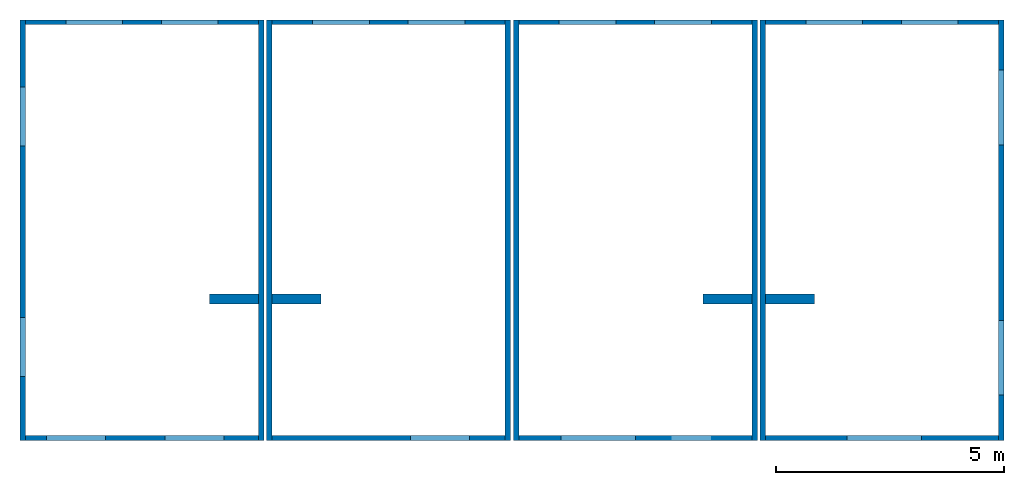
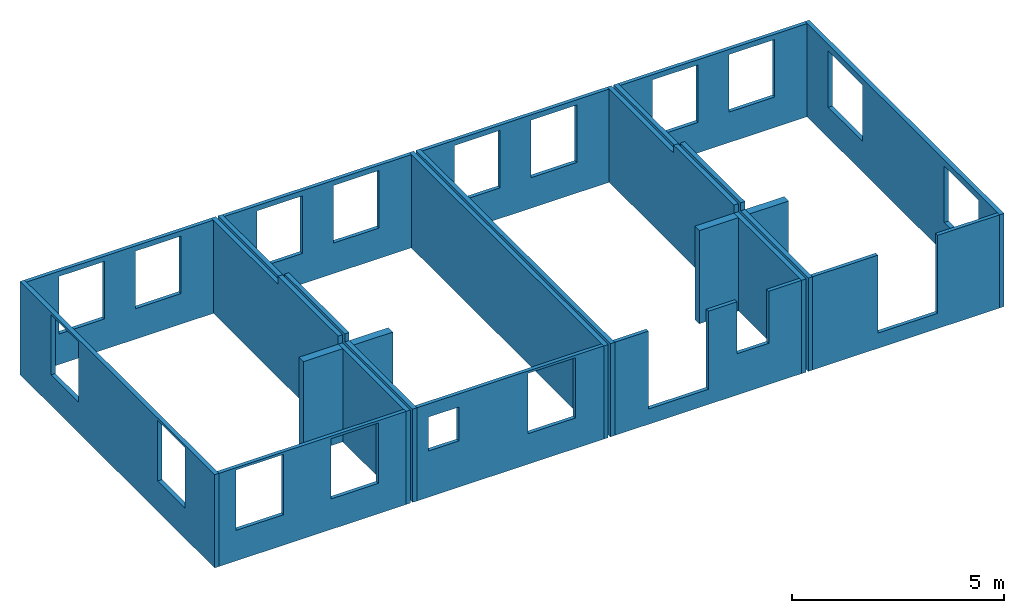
# One storey: 20 walls, 27 openings.
"""IFC2X3 building model written with IfcOpenShell, lengths in millimetres."""

from ifc_helpers import new_model, entity, si_unit, converted_unit, derived_unit, direction, frame, frame_2d, origin, origin_with_axes, origin_2d_with_axis, place, context, subcontext, project, spatial, rectangle, extrude, material, layer, layer_set, layer_usage, type_object, element, save


model = new_model("IFC2X3")

# Units and contexts
model_context_1 = context("Model", 3, precision=0.01, world=origin(), true_north=direction((6.12303176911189e-17, 1.0)))
plan_context = context("Plan", 3, precision=0.01, world=origin(), true_north=direction((6.12303176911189e-17, 1.0)))
model_context_2 = context("Model", 3, precision=0.01, world=origin(), true_north=direction((6.12303176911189e-17, 1.0)))
body_context = subcontext(model_context_2, "Body", "Model", "MODEL_VIEW")
ifc_project = project(units=[converted_unit("PLANEANGLEUNIT", "DEGREE", entity("IfcPositiveLengthMeasure", 0.0174532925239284), si_unit("PLANEANGLEUNIT", "RADIAN"), dimensions=[0, 0, 0, 0, 0, 0, 0]), si_unit("AREAUNIT", "SQUARE_METRE", prefix="MILLI"), si_unit("LENGTHUNIT", "METRE", prefix="MILLI"), si_unit("MASSUNIT", "GRAM", prefix="KILO"), si_unit("POWERUNIT", "WATT"), si_unit("PRESSUREUNIT", "PASCAL"), si_unit("FORCEUNIT", "NEWTON", prefix="KILO"), si_unit("ELECTRICCURRENTUNIT", "AMPERE"), si_unit("THERMODYNAMICTEMPERATUREUNIT", "DEGREE_CELSIUS"), si_unit("TIMEUNIT", "SECOND"), si_unit("VOLUMEUNIT", "CUBIC_METRE"), derived_unit("LINEARVELOCITYUNIT", [(si_unit("LENGTHUNIT", "METRE"), 1), (si_unit("TIMEUNIT", "SECOND"), -1)]), derived_unit("VOLUMETRICFLOWRATEUNIT", [(si_unit("VOLUMEUNIT", "CUBIC_METRE"), 1), (si_unit("TIMEUNIT", "SECOND"), -1)]), derived_unit("THERMALTRANSMITTANCEUNIT", [(si_unit("POWERUNIT", "WATT"), 1), (si_unit("THERMODYNAMICTEMPERATUREUNIT", "KELVIN"), -1), (si_unit("AREAUNIT", "SQUARE_METRE"), -1)]), derived_unit("SOUNDPRESSUREUNIT", [(si_unit("PRESSUREUNIT", "PASCAL"), 1)])], contexts=[model_context_1, plan_context])

# Site, building, storey
site_placement = place(None, origin_with_axes())
site = spatial("IfcSite", under=ifc_project, at=site_placement, Name="Harderwijk", CompositionType="ELEMENT")
building_placement = place(site_placement, origin_with_axes())
building = spatial("IfcBuilding", under=site, at=building_placement, CompositionType="ELEMENT")
storey_placement = place(building_placement, frame((0.0, 0.0, 2920.0), z_axis=(0.0, 0.0, 1.0), x_axis=(1.0, 0.0, 0.0)))
storey = spatial("IfcBuildingStorey", under=building, at=storey_placement, Name="01 eerste verdieping", CompositionType="ELEMENT", Elevation=2920.00000000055)

# Walls
ifc_material_1 = material(Name="kalkzandsteen_CS12")
ifc_layer_1 = layer(ifc_material_1, 120.0)
ifc_layer_set_1 = layer_set([ifc_layer_1], Name="Basic Wall:22_kalkzandsteen element_CS12_120mm")
ifc_layer_usage_1 = layer_usage(ifc_layer_set_1, "AXIS2", "POSITIVE", -60.0)
wall_type_1 = type_object("IfcWallType", Name="22_kalkzandsteen element_CS12_120mm", PredefinedType="STANDARD", material=ifc_layer_set_1)
wall_1_placement = place(storey_placement, frame((20890.0, 19200.0, -70.0), z_axis=(0.0, 0.0, 1.0), x_axis=(0.0, -1.0, 0.0)))
element("IfcWallStandardCase", 1, at=wall_1_placement, inside=storey, type_object=wall_type_1, material=ifc_layer_usage_1, Name="Basic Wall:22_kalkzandsteen element_CS12_120mm", ObjectType="Basic Wall:22_kalkzandsteen element_CS12_120mm", context=body_context, shape_type="SweptSolid", body=[
    extrude(rectangle(XDim=9200.0, YDim=119.999999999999, at=frame_2d((4600.0, 5.29354338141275e-13), x_axis=(-1.0, 0.0))), origin(), (0.0, 0.0, 1.0), 2690.0),
])
ifc_layer_usage_2 = layer_usage(ifc_layer_set_1, "AXIS2", "POSITIVE", -60.0)
wall_2_placement = place(storey_placement, frame((20710.0, 19200.0, -70.0), z_axis=(0.0, 0.0, 1.0), x_axis=(0.0, -1.0, 0.0)))
element("IfcWallStandardCase", 2, at=wall_2_placement, inside=storey, type_object=wall_type_1, material=ifc_layer_usage_2, Name="Basic Wall:22_kalkzandsteen element_CS12_120mm", ObjectType="Basic Wall:22_kalkzandsteen element_CS12_120mm", context=body_context, shape_type="SweptSolid", body=[
    extrude(rectangle(XDim=9200.00000000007, YDim=119.999999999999, at=frame_2d((4600.00000000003, 5.29354338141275e-13), x_axis=(-1.0, 0.0))), origin(), (0.0, 0.0, 1.0), 2690.0),
])

# Wall, openings
ifc_layer_usage_3 = layer_usage(ifc_layer_set_1, "AXIS2", "POSITIVE", -60.0)
wall_3_placement = place(storey_placement, frame((26110.0, 19200.0, -70.0), z_axis=(0.0, 0.0, 1.0), x_axis=(0.0, -1.0, 0.0)))
wall_3 = element("IfcWallStandardCase", 3, at=wall_3_placement, inside=storey, type_object=wall_type_1, material=ifc_layer_usage_3, Name="Basic Wall:22_kalkzandsteen element_CS12_120mm", ObjectType="Basic Wall:22_kalkzandsteen element_CS12_120mm", context=body_context, shape_type="SweptSolid", body=[
    extrude(rectangle(XDim=9200.00000000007, YDim=119.999999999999, at=frame_2d((4600.00000000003, 5.29354338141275e-13), x_axis=(-1.0, 0.0))), origin(), (0.0, 0.0, 1.0), 2919.99999999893),
])
opening_1_placement = place(wall_3_placement, origin_with_axes())
element("IfcOpeningElement", 4, at=opening_1_placement, cuts=wall_3, Name="Basic Wall:22_kalkzandsteen element_CS12_120mm", ObjectType="Opening", context=body_context, shape_type="SweptSolid", body=[
    extrude(rectangle(XDim=229.999999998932, YDim=3200.00000000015, at=origin_2d_with_axis()), frame((7600.0, 60.0, 2805.0), z_axis=(0.0, -1.0, 0.0), x_axis=(0.0, 0.0, 1.0)), (0.0, 0.0, 1.0), 120.0),
])
opening_2_placement = place(wall_3_placement, origin_with_axes())
element("IfcOpeningElement", 5, at=opening_2_placement, cuts=wall_3, Name="Basic Wall:22_kalkzandsteen element_CS12_120mm", ObjectType="Opening", context=body_context, shape_type="SweptSolid", body=[
    extrude(rectangle(XDim=229.999999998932, YDim=3150.0, at=frame_2d((0.0, 0.0), x_axis=(0.0, 1.0))), frame((1575.0, 60.0, 2805.0), z_axis=(0.0, -1.0, 0.0), x_axis=(-1.0, 0.0, 0.0)), (0.0, 0.0, 1.0), 120.0),
])

ifc_layer_usage_4 = layer_usage(ifc_layer_set_1, "AXIS2", "POSITIVE", -60.0)
wall_4_placement = place(storey_placement, frame((15310.0, 19200.0, -70.0), z_axis=(0.0, 0.0, 1.0), x_axis=(0.0, -1.0, 0.0)))
wall_4 = element("IfcWallStandardCase", 6, at=wall_4_placement, inside=storey, type_object=wall_type_1, material=ifc_layer_usage_4, Name="Basic Wall:22_kalkzandsteen element_CS12_120mm", ObjectType="Basic Wall:22_kalkzandsteen element_CS12_120mm", context=body_context, shape_type="SweptSolid", body=[
    extrude(rectangle(XDim=9200.00000000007, YDim=119.999999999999, at=frame_2d((4600.00000000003, -5.54223333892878e-13), x_axis=(-1.0, 0.0))), origin(), (0.0, 0.0, 1.0), 2919.99999999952),
])
opening_3_placement = place(wall_4_placement, origin_with_axes())
element("IfcOpeningElement", 7, at=opening_3_placement, cuts=wall_4, Name="Basic Wall:22_kalkzandsteen element_CS12_120mm", ObjectType="Opening", context=body_context, shape_type="SweptSolid", body=[
    extrude(rectangle(XDim=229.999999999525, YDim=3200.00000000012, at=frame_2d((0.0, -1.13686837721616e-12), x_axis=(1.0, 0.0))), frame((7600.0, 60.0, 2805.0), z_axis=(0.0, -1.0, 0.0), x_axis=(0.0, 0.0, 1.0)), (0.0, 0.0, 1.0), 120.0),
])
opening_4_placement = place(wall_4_placement, origin_with_axes())
element("IfcOpeningElement", 8, at=opening_4_placement, cuts=wall_4, Name="Basic Wall:22_kalkzandsteen element_CS12_120mm", ObjectType="Opening", context=body_context, shape_type="SweptSolid", body=[
    extrude(rectangle(XDim=229.999999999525, YDim=3150.00000000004, at=frame_2d((0.0, 0.0), x_axis=(0.0, 1.0))), frame((1575.0, 60.0, 2805.0), z_axis=(0.0, -1.0, 0.0), x_axis=(-1.0, 0.0, 0.0)), (0.0, 0.0, 1.0), 120.0),
])

ifc_layer_usage_5 = layer_usage(ifc_layer_set_1, "AXIS2", "POSITIVE", -60.0)
wall_5_placement = place(storey_placement, frame((15490.0, 19200.0, -70.0), z_axis=(0.0, 0.0, 1.0), x_axis=(0.0, -1.0, 0.0)))
wall_5 = element("IfcWallStandardCase", 9, at=wall_5_placement, inside=storey, type_object=wall_type_1, material=ifc_layer_usage_5, Name="Basic Wall:22_kalkzandsteen element_CS12_120mm", ObjectType="Basic Wall:22_kalkzandsteen element_CS12_120mm", context=body_context, shape_type="SweptSolid", body=[
    extrude(rectangle(XDim=9200.00000000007, YDim=119.999999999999, at=frame_2d((4600.00000000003, -5.54223333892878e-13), x_axis=(-1.0, 0.0))), origin(), (0.0, 0.0, 1.0), 2920.0),
])
opening_5_placement = place(wall_5_placement, origin_with_axes())
element("IfcOpeningElement", 10, at=opening_5_placement, cuts=wall_5, Name="Basic Wall:22_kalkzandsteen element_CS12_120mm", ObjectType="Opening", context=body_context, shape_type="SweptSolid", body=[
    extrude(rectangle(XDim=230.0, YDim=3200.00000000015, at=origin_2d_with_axis()), frame((7600.0, 60.0, 2805.0), z_axis=(0.0, -1.0, 0.0), x_axis=(0.0, 0.0, 1.0)), (0.0, 0.0, 1.0), 120.0),
])
opening_6_placement = place(wall_5_placement, origin_with_axes())
element("IfcOpeningElement", 11, at=opening_6_placement, cuts=wall_5, Name="Basic Wall:22_kalkzandsteen element_CS12_120mm", ObjectType="Opening", context=body_context, shape_type="SweptSolid", body=[
    extrude(rectangle(XDim=230.0, YDim=3150.00000000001, at=frame_2d((1.13686837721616e-12, 0.0), x_axis=(0.0, 1.0))), frame((1575.0, 60.0, 2805.0), z_axis=(0.0, -1.0, 0.0), x_axis=(-1.0, 0.0, 0.0)), (0.0, 0.0, 1.0), 120.0),
])

ifc_layer_usage_6 = layer_usage(ifc_layer_set_1, "AXIS2", "POSITIVE", -60.0)
wall_6_placement = place(storey_placement, frame((26290.0, 19200.0, -70.0), z_axis=(0.0, 0.0, 1.0), x_axis=(0.0, -1.0, 0.0)))
wall_6 = element("IfcWallStandardCase", 12, at=wall_6_placement, inside=storey, type_object=wall_type_1, material=ifc_layer_usage_6, Name="Basic Wall:22_kalkzandsteen element_CS12_120mm", ObjectType="Basic Wall:22_kalkzandsteen element_CS12_120mm", context=body_context, shape_type="SweptSolid", body=[
    extrude(rectangle(XDim=9200.00000000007, YDim=119.999999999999, at=frame_2d((4600.00000000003, 5.29354338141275e-13), x_axis=(-1.0, 0.0))), origin(), (0.0, 0.0, 1.0), 2919.99999999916),
])
opening_7_placement = place(wall_6_placement, origin_with_axes())
element("IfcOpeningElement", 13, at=opening_7_placement, cuts=wall_6, Name="Basic Wall:22_kalkzandsteen element_CS12_120mm", ObjectType="Opening", context=body_context, shape_type="SweptSolid", body=[
    extrude(rectangle(XDim=229.999999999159, YDim=3200.00000000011, at=frame_2d((0.0, 1.13686837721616e-12), x_axis=(1.0, 0.0))), frame((7600.0, 60.0, 2805.0), z_axis=(0.0, -1.0, 0.0), x_axis=(0.0, 0.0, 1.0)), (0.0, 0.0, 1.0), 120.0),
])
opening_8_placement = place(wall_6_placement, origin_with_axes())
element("IfcOpeningElement", 14, at=opening_8_placement, cuts=wall_6, Name="Basic Wall:22_kalkzandsteen element_CS12_120mm", ObjectType="Opening", context=body_context, shape_type="SweptSolid", body=[
    extrude(rectangle(XDim=229.999999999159, YDim=3149.99999999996, at=frame_2d((1.9554136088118e-11, 0.0), x_axis=(0.0, 1.0))), frame((1575.0, 60.0, 2805.0), z_axis=(0.0, -1.0, 0.0), x_axis=(-1.0, 0.0, 0.0)), (0.0, 0.0, 1.0), 120.0),
])

ifc_layer_2 = layer(ifc_material_1, 120.0)
ifc_layer_set_2 = layer_set([ifc_layer_2], Name="Basic Wall:21_kalkzandsteen element_CS12_120mm")
ifc_layer_usage_7 = layer_usage(ifc_layer_set_2, "AXIS2", "POSITIVE", -60.0)
wall_type_2 = type_object("IfcWallType", Name="21_kalkzandsteen element_CS12_120mm", PredefinedType="STANDARD", material=ifc_layer_set_2)
wall_7_placement = place(storey_placement, frame((10090.0, 19200.0, -70.0), z_axis=(0.0, 0.0, 1.0), x_axis=(0.0, -1.0, 0.0)))
wall_7 = element("IfcWallStandardCase", 15, at=wall_7_placement, inside=storey, type_object=wall_type_2, material=ifc_layer_usage_7, Name="Basic Wall:21_kalkzandsteen element_CS12_120mm", ObjectType="Basic Wall:21_kalkzandsteen element_CS12_120mm", context=body_context, shape_type="SweptSolid", body=[
    extrude(rectangle(XDim=9200.0, YDim=119.999999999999, at=frame_2d((4600.0, -5.54223333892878e-13), x_axis=(-1.0, 0.0))), origin(), (0.0, 0.0, 1.0), 2690.0),
])
opening_9_placement = place(wall_7_placement, frame((2755.0, -1584.0, 880.0), z_axis=(0.0, 0.0, 1.0), x_axis=(0.0, 1.0, 0.0)))
element("IfcOpeningElement", 16, at=opening_9_placement, cuts=wall_7, Name="Basic Wall:21_kalkzandsteen element_CS12_120mm", ObjectType="Opening", context=body_context, shape_type="SweptSolid", body=[
    extrude(rectangle(XDim=1740.0, YDim=1292.0, at=frame_2d((-2.27373675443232e-13, 0.0), x_axis=(1.0, 0.0))), frame((0.0, 646.0, 870.0), z_axis=(1.0, 0.0, 0.0), x_axis=(0.0, 0.0, -1.0)), (0.0, 0.0, 1.0), 3048.0),
])
opening_10_placement = place(wall_7_placement, frame((7801.0, -1584.0, 880.0), z_axis=(0.0, 0.0, 1.0), x_axis=(0.0, 1.0, 0.0)))
element("IfcOpeningElement", 17, at=opening_10_placement, cuts=wall_7, Name="Basic Wall:21_kalkzandsteen element_CS12_120mm", ObjectType="Opening", context=body_context, shape_type="SweptSolid", body=[
    extrude(rectangle(XDim=1740.0, YDim=1292.0, at=frame_2d((0.0, -1.08002495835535e-12), x_axis=(1.0, 0.0))), frame((0.0, 646.0, 870.0), z_axis=(1.0, 0.0, 0.0), x_axis=(0.0, 0.0, -1.0)), (0.0, 0.0, 1.0), 3048.0),
])

ifc_layer_usage_8 = layer_usage(ifc_layer_set_2, "AXIS2", "POSITIVE", -60.0)
wall_8_placement = place(storey_placement, frame((31510.0, 19200.0, -70.0), z_axis=(0.0, 0.0, 1.0), x_axis=(0.0, -1.0, 0.0)))
wall_8 = element("IfcWallStandardCase", 18, at=wall_8_placement, inside=storey, type_object=wall_type_2, material=ifc_layer_usage_8, Name="Basic Wall:21_kalkzandsteen element_CS12_120mm", ObjectType="Basic Wall:21_kalkzandsteen element_CS12_120mm", context=body_context, shape_type="SweptSolid", body=[
    extrude(rectangle(XDim=9200.0, YDim=119.999999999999, at=frame_2d((4600.0, 5.29354338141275e-13), x_axis=(-1.0, 0.0))), origin(), (0.0, 0.0, 1.0), 2690.0),
])
opening_11_placement = place(wall_8_placement, frame((2731.0, -1584.0, 880.0), z_axis=(0.0, 0.0, 1.0), x_axis=(0.0, 1.0, 0.0)))
element("IfcOpeningElement", 19, at=opening_11_placement, cuts=wall_8, Name="Basic Wall:21_kalkzandsteen element_CS12_120mm", ObjectType="Opening", context=body_context, shape_type="SweptSolid", body=[
    extrude(rectangle(XDim=1625.0, YDim=1632.0, at=frame_2d((0.0, 1.08002495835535e-12), x_axis=(1.0, 0.0))), frame((0.0, 816.0, 812.5), z_axis=(1.0, 0.0, 0.0), x_axis=(0.0, 0.0, -1.0)), (0.0, 0.0, 1.0), 3048.0),
])
opening_12_placement = place(wall_8_placement, frame((8211.0, -1584.0, 880.0), z_axis=(0.0, 0.0, 1.0), x_axis=(0.0, 1.0, 0.0)))
element("IfcOpeningElement", 20, at=opening_12_placement, cuts=wall_8, Name="Basic Wall:21_kalkzandsteen element_CS12_120mm", ObjectType="Opening", context=body_context, shape_type="SweptSolid", body=[
    extrude(rectangle(XDim=1625.0, YDim=1632.0, at=frame_2d((0.0, 1.08002495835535e-12), x_axis=(1.0, 0.0))), frame((0.0, 816.0, 812.5), z_axis=(1.0, 0.0, 0.0), x_axis=(0.0, 0.0, -1.0)), (0.0, 0.0, 1.0), 3048.0),
])

# Walls
ifc_material_2 = material(Name="kalkzandsteen_CS36")
ifc_layer_3 = layer(ifc_material_2, 214.0)
ifc_layer_set_3 = layer_set([ifc_layer_3], Name="Basic Wall:22_kalkzandsteen element_CS36_214mm")
ifc_layer_usage_9 = layer_usage(ifc_layer_set_3, "AXIS2", "POSITIVE", -107.0)
wall_type_3 = type_object("IfcWallType", Name="22_kalkzandsteen element_CS36_214mm", PredefinedType="STANDARD", material=ifc_layer_set_3)
wall_9_placement = place(storey_placement, frame((14180.0, 13093.0, -70.0), z_axis=(0.0, 0.0, 1.0), x_axis=(1.0, 0.0, 0.0)))
element("IfcWallStandardCase", 21, at=wall_9_placement, inside=storey, type_object=wall_type_3, material=ifc_layer_usage_9, Name="Basic Wall:22_kalkzandsteen element_CS36_214mm", ObjectType="Basic Wall:22_kalkzandsteen element_CS36_214mm", context=body_context, shape_type="SweptSolid", body=[
    extrude(rectangle(XDim=1070.0, YDim=213.999999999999, at=frame_2d((535.0, -6.67910171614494e-13), x_axis=(-1.0, 0.0))), origin(), (0.0, 0.0, 1.0), 2690.0),
])
ifc_layer_usage_10 = layer_usage(ifc_layer_set_3, "AXIS2", "NEGATIVE", 107.0)
wall_10_placement = place(storey_placement, frame((16620.0, 13093.0, -70.0), z_axis=(0.0, 0.0, 1.0), x_axis=(-1.0, 0.0, 0.0)))
element("IfcWallStandardCase", 22, at=wall_10_placement, inside=storey, type_object=wall_type_3, material=ifc_layer_usage_10, Name="Basic Wall:22_kalkzandsteen element_CS36_214mm", ObjectType="Basic Wall:22_kalkzandsteen element_CS36_214mm", context=body_context, shape_type="SweptSolid", body=[
    extrude(rectangle(XDim=1070.0, YDim=213.999999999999, at=frame_2d((535.0, 6.67910171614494e-13), x_axis=(-1.0, 0.0))), origin(), (0.0, 0.0, 1.0), 2690.0),
])
ifc_layer_usage_11 = layer_usage(ifc_layer_set_3, "AXIS2", "POSITIVE", -107.0)
wall_11_placement = place(storey_placement, frame((24980.0, 13093.0, -70.0), z_axis=(0.0, 0.0, 1.0), x_axis=(1.0, 0.0, 0.0)))
element("IfcWallStandardCase", 23, at=wall_11_placement, inside=storey, type_object=wall_type_3, material=ifc_layer_usage_11, Name="Basic Wall:22_kalkzandsteen element_CS36_214mm", ObjectType="Basic Wall:22_kalkzandsteen element_CS36_214mm", context=body_context, shape_type="SweptSolid", body=[
    extrude(rectangle(XDim=1070.0, YDim=213.999999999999, at=frame_2d((535.0, -6.67910171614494e-13), x_axis=(-1.0, 0.0))), origin(), (0.0, 0.0, 1.0), 2690.0),
])
ifc_layer_usage_12 = layer_usage(ifc_layer_set_3, "AXIS2", "NEGATIVE", 107.0)
wall_12_placement = place(storey_placement, frame((27420.0, 13093.0, -70.0), z_axis=(0.0, 0.0, 1.0), x_axis=(-1.0, 0.0, 0.0)))
element("IfcWallStandardCase", 24, at=wall_12_placement, inside=storey, type_object=wall_type_3, material=ifc_layer_usage_12, Name="Basic Wall:22_kalkzandsteen element_CS36_214mm", ObjectType="Basic Wall:22_kalkzandsteen element_CS36_214mm", context=body_context, shape_type="SweptSolid", body=[
    extrude(rectangle(XDim=1070.0, YDim=213.999999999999, at=frame_2d((535.0, 6.67910171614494e-13), x_axis=(-1.0, 0.0))), origin(), (0.0, 0.0, 1.0), 2690.0),
])

# Wall, openings
ifc_layer_4 = layer(ifc_material_1, 100.0)
ifc_layer_set_4 = layer_set([ifc_layer_4], Name="Basic Wall:21_kalkzandsteen element_CS12_100mm")
ifc_layer_usage_13 = layer_usage(ifc_layer_set_4, "AXIS2", "POSITIVE", -50.0)
wall_type_4 = type_object("IfcWallType", Name="21_kalkzandsteen element_CS12_100mm", PredefinedType="STANDARD", material=ifc_layer_set_4)
wall_13_placement = place(storey_placement, frame((31450.0, 19150.0, -70.0), z_axis=(0.0, 0.0, 1.0), x_axis=(-1.0, 0.0, 0.0)))
wall_13 = element("IfcWallStandardCase", 25, at=wall_13_placement, inside=storey, type_object=wall_type_4, material=ifc_layer_usage_13, Name="Basic Wall:21_kalkzandsteen element_CS12_100mm", ObjectType="Basic Wall:21_kalkzandsteen element_CS12_100mm", context=body_context, shape_type="SweptSolid", body=[
    extrude(rectangle(XDim=5099.99999999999, YDim=99.9999999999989, at=frame_2d((2550.0, -5.15143483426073e-13), x_axis=(-1.0, 0.0))), origin(), (0.0, 0.0, 1.0), 2690.0),
])
opening_13_placement = place(wall_13_placement, frame((4217.0, 1474.0, 880.0), z_axis=(0.0, 0.0, 1.0), x_axis=(-1.0, 0.0, 0.0)))
element("IfcOpeningElement", 26, at=opening_13_placement, cuts=wall_13, Name="Basic Wall:21_kalkzandsteen element_CS12_100mm", ObjectType="Opening", context=body_context, shape_type="SweptSolid", body=[
    extrude(rectangle(XDim=1660.0, YDim=1244.0, at=frame_2d((0.0, -2.21689333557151e-12), x_axis=(1.0, 0.0))), frame((622.0, 3048.0, 830.0), z_axis=(0.0, -1.0, 0.0), x_axis=(0.0, 0.0, -1.0)), (0.0, 0.0, 1.0), 3048.0),
])
opening_14_placement = place(wall_13_placement, frame((2126.92403876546, 1474.0, 880.0), z_axis=(0.0, 0.0, 1.0), x_axis=(-1.0, 0.0, 0.0)))
element("IfcOpeningElement", 27, at=opening_14_placement, cuts=wall_13, Name="Basic Wall:21_kalkzandsteen element_CS12_100mm", ObjectType="Opening", context=body_context, shape_type="SweptSolid", body=[
    extrude(rectangle(XDim=1660.0, YDim=1244.0, at=frame_2d((0.0, -2.21689333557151e-12), x_axis=(1.0, 0.0))), frame((622.0, 3048.0, 830.0), z_axis=(0.0, -1.0, 0.0), x_axis=(0.0, 0.0, -1.0)), (0.0, 0.0, 1.0), 3048.0),
])

ifc_layer_usage_14 = layer_usage(ifc_layer_set_4, "AXIS2", "POSITIVE", -50.0)
wall_14_placement = place(storey_placement, frame((10150.0, 10050.0, -70.0), z_axis=(0.0, 0.0, 1.0), x_axis=(1.0, 0.0, 0.0)))
wall_14 = element("IfcWallStandardCase", 28, at=wall_14_placement, inside=storey, type_object=wall_type_4, material=ifc_layer_usage_14, Name="Basic Wall:21_kalkzandsteen element_CS12_100mm", ObjectType="Basic Wall:21_kalkzandsteen element_CS12_100mm", context=body_context, shape_type="SweptSolid", body=[
    extrude(rectangle(XDim=5099.99999999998, YDim=99.9999999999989, at=frame_2d((2549.99999999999, 5.6843418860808e-13), x_axis=(-1.0, 0.0))), origin(), (0.0, 0.0, 1.0), 2690.0),
])
opening_15_placement = place(wall_14_placement, frame((3054.0, -1574.0, 880.0), z_axis=(0.0, 0.0, 1.0), x_axis=(1.0, 0.0, 0.0)))
element("IfcOpeningElement", 29, at=opening_15_placement, cuts=wall_14, Name="Basic Wall:21_kalkzandsteen element_CS12_100mm", ObjectType="Opening", context=body_context, shape_type="SweptSolid", body=[
    extrude(rectangle(XDim=1740.0, YDim=1292.0, at=frame_2d((0.0, 0.0), x_axis=(0.0, 1.0))), frame((646.0, 0.0, 870.0), z_axis=(0.0, 1.0, 0.0), x_axis=(1.0, 0.0, 0.0)), (0.0, 0.0, 1.0), 3048.0),
])
opening_16_placement = place(wall_14_placement, frame((465.0, -1474.0, 880.0), z_axis=(0.0, 0.0, 1.0), x_axis=(1.0, 0.0, 0.0)))
element("IfcOpeningElement", 30, at=opening_16_placement, cuts=wall_14, Name="Basic Wall:21_kalkzandsteen element_CS12_100mm", ObjectType="Opening", context=body_context, shape_type="SweptSolid", body=[
    extrude(rectangle(XDim=1740.0, YDim=1292.0, at=frame_2d((0.0, -1.08002495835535e-12), x_axis=(1.0, 0.0))), frame((646.0, 0.0, 870.0), z_axis=(0.0, 1.0, 0.0), x_axis=(0.0, 0.0, -1.0)), (0.0, 0.0, 1.0), 3048.0),
])

ifc_layer_usage_15 = layer_usage(ifc_layer_set_4, "AXIS2", "NEGATIVE", 50.0)
wall_15_placement = place(storey_placement, frame((10150.0, 19150.0, -70.0), z_axis=(0.0, 0.0, 1.0), x_axis=(1.0, 0.0, 0.0)))
wall_15 = element("IfcWallStandardCase", 31, at=wall_15_placement, inside=storey, type_object=wall_type_4, material=ifc_layer_usage_15, Name="Basic Wall:21_kalkzandsteen element_CS12_100mm", ObjectType="Basic Wall:21_kalkzandsteen element_CS12_100mm", context=body_context, shape_type="SweptSolid", body=[
    extrude(rectangle(XDim=5099.99999999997, YDim=99.9999999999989, at=frame_2d((2549.99999999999, 5.18696197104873e-13), x_axis=(-1.0, 0.0))), origin(), (0.0, 0.0, 1.0), 2690.0),
])
opening_17_placement = place(wall_15_placement, frame((883.0, -1474.0, 880.0), z_axis=(0.0, 0.0, 1.0), x_axis=(1.0, 0.0, 0.0)))
element("IfcOpeningElement", 32, at=opening_17_placement, cuts=wall_15, Name="Basic Wall:21_kalkzandsteen element_CS12_100mm", ObjectType="Opening", context=body_context, shape_type="SweptSolid", body=[
    extrude(rectangle(XDim=1660.0, YDim=1244.0, at=frame_2d((0.0, -1.08002495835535e-12), x_axis=(1.0, 0.0))), frame((622.0, 0.0, 830.0), z_axis=(0.0, 1.0, 0.0), x_axis=(0.0, 0.0, -1.0)), (0.0, 0.0, 1.0), 3048.0),
])
opening_18_placement = place(wall_15_placement, frame((2973.0, -1474.0, 880.0), z_axis=(0.0, 0.0, 1.0), x_axis=(1.0, 0.0, 0.0)))
element("IfcOpeningElement", 33, at=opening_18_placement, cuts=wall_15, Name="Basic Wall:21_kalkzandsteen element_CS12_100mm", ObjectType="Opening", context=body_context, shape_type="SweptSolid", body=[
    extrude(rectangle(XDim=1660.0, YDim=1244.0, at=frame_2d((0.0, 1.08002495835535e-12), x_axis=(1.0, 0.0))), frame((622.0, 0.0, 830.0), z_axis=(0.0, 1.0, 0.0), x_axis=(0.0, 0.0, -1.0)), (0.0, 0.0, 1.0), 3048.0),
])

ifc_layer_usage_16 = layer_usage(ifc_layer_set_4, "AXIS2", "POSITIVE", -50.0)
wall_16_placement = place(storey_placement, frame((20950.0, 10050.0, -70.0), z_axis=(0.0, 0.0, 1.0), x_axis=(1.0, 0.0, 0.0)))
wall_16 = element("IfcWallStandardCase", 34, at=wall_16_placement, inside=storey, type_object=wall_type_4, material=ifc_layer_usage_16, Name="Basic Wall:21_kalkzandsteen element_CS12_100mm", ObjectType="Basic Wall:21_kalkzandsteen element_CS12_100mm", context=body_context, shape_type="SweptSolid", body=[
    extrude(rectangle(XDim=5099.99999999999, YDim=99.9999999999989, at=frame_2d((2549.99999999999, 5.6843418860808e-13), x_axis=(-1.0, 0.0))), origin(), (0.0, 0.0, 1.0), 2690.0),
])
opening_19_placement = place(wall_16_placement, frame((3339.0, -1574.0, 1190.0), z_axis=(0.0, 0.0, 1.0), x_axis=(1.0, 0.0, 0.0)))
element("IfcOpeningElement", 35, at=opening_19_placement, cuts=wall_16, Name="Basic Wall:21_kalkzandsteen element_CS12_100mm", ObjectType="Opening", context=body_context, shape_type="SweptSolid", body=[
    extrude(rectangle(XDim=1500.0, YDim=861.999999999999, at=frame_2d((2.1600499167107e-12, 5.11590769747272e-13), x_axis=(0.0, 1.0))), frame((431.0, 0.0, 750.0), z_axis=(0.0, 1.0, 0.0), x_axis=(1.0, 0.0, 0.0)), (0.0, 0.0, 1.0), 3048.0),
])
opening_20_placement = place(wall_16_placement, frame((919.0, -1474.0, 440.0), z_axis=(0.0, 0.0, 1.0), x_axis=(1.0, 0.0, 0.0)))
element("IfcOpeningElement", 36, at=opening_20_placement, cuts=wall_16, Name="Basic Wall:21_kalkzandsteen element_CS12_100mm", ObjectType="Opening", context=body_context, shape_type="SweptSolid", body=[
    extrude(rectangle(XDim=2250.0, YDim=1632.0, at=frame_2d((3.41060513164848e-13, -4.37694325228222e-12), x_axis=(1.0, 0.0))), frame((816.0, 0.0, 1125.0), z_axis=(0.0, 1.0, 0.0), x_axis=(0.0, 0.0, -1.0)), (0.0, 0.0, 1.0), 3048.0),
])

ifc_layer_usage_17 = layer_usage(ifc_layer_set_4, "AXIS2", "NEGATIVE", 50.0)
wall_17_placement = place(storey_placement, frame((20950.0, 19150.0, -70.0), z_axis=(0.0, 0.0, 1.0), x_axis=(1.0, 0.0, 0.0)))
wall_17 = element("IfcWallStandardCase", 37, at=wall_17_placement, inside=storey, type_object=wall_type_4, material=ifc_layer_usage_17, Name="Basic Wall:21_kalkzandsteen element_CS12_100mm", ObjectType="Basic Wall:21_kalkzandsteen element_CS12_100mm", context=body_context, shape_type="SweptSolid", body=[
    extrude(rectangle(XDim=5099.99999999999, YDim=99.9999999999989, at=frame_2d((2550.0, 5.18696197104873e-13), x_axis=(-1.0, 0.0))), origin(), (0.0, 0.0, 1.0), 2690.0),
])
opening_21_placement = place(wall_17_placement, frame((2973.0759612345, -1474.0, 880.0), z_axis=(0.0, 0.0, 1.0), x_axis=(1.0, 0.0, 0.0)))
element("IfcOpeningElement", 38, at=opening_21_placement, cuts=wall_17, Name="Basic Wall:21_kalkzandsteen element_CS12_100mm", ObjectType="Opening", context=body_context, shape_type="SweptSolid", body=[
    extrude(rectangle(XDim=1660.0, YDim=1244.0, at=frame_2d((0.0, -2.21689333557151e-12), x_axis=(1.0, 0.0))), frame((622.0, 0.0, 830.0), z_axis=(0.0, 1.0, 0.0), x_axis=(0.0, 0.0, -1.0)), (0.0, 0.0, 1.0), 3048.0),
])
opening_22_placement = place(wall_17_placement, frame((883.0, -1474.0, 880.0), z_axis=(0.0, 0.0, 1.0), x_axis=(1.0, 0.0, 0.0)))
element("IfcOpeningElement", 39, at=opening_22_placement, cuts=wall_17, Name="Basic Wall:21_kalkzandsteen element_CS12_100mm", ObjectType="Opening", context=body_context, shape_type="SweptSolid", body=[
    extrude(rectangle(XDim=1660.0, YDim=1244.0, at=frame_2d((0.0, -2.21689333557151e-12), x_axis=(1.0, 0.0))), frame((622.0, 0.0, 830.0), z_axis=(0.0, 1.0, 0.0), x_axis=(0.0, 0.0, -1.0)), (0.0, 0.0, 1.0), 3048.0),
])

ifc_layer_usage_18 = layer_usage(ifc_layer_set_4, "AXIS2", "POSITIVE", -50.0)
wall_18_placement = place(storey_placement, frame((20650.0, 19150.0, -70.0), z_axis=(0.0, 0.0, 1.0), x_axis=(-1.0, 0.0, 0.0)))
wall_18 = element("IfcWallStandardCase", 40, at=wall_18_placement, inside=storey, type_object=wall_type_4, material=ifc_layer_usage_18, Name="Basic Wall:21_kalkzandsteen element_CS12_100mm", ObjectType="Basic Wall:21_kalkzandsteen element_CS12_100mm", context=body_context, shape_type="SweptSolid", body=[
    extrude(rectangle(XDim=5100.00000000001, YDim=99.9999999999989, at=frame_2d((2550.0, -5.15143483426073e-13), x_axis=(-1.0, 0.0))), origin(), (0.0, 0.0, 1.0), 2690.0),
])
opening_23_placement = place(wall_18_placement, frame((4217.0, 1474.0, 880.0), z_axis=(0.0, 0.0, 1.0), x_axis=(-1.0, 0.0, 0.0)))
element("IfcOpeningElement", 41, at=opening_23_placement, cuts=wall_18, Name="Basic Wall:21_kalkzandsteen element_CS12_100mm", ObjectType="Opening", context=body_context, shape_type="SweptSolid", body=[
    extrude(rectangle(XDim=1660.0, YDim=1244.0, at=frame_2d((0.0, 1.08002495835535e-12), x_axis=(1.0, 0.0))), frame((622.0, 3048.0, 830.0), z_axis=(0.0, -1.0, 0.0), x_axis=(0.0, 0.0, -1.0)), (0.0, 0.0, 1.0), 3048.0),
])
opening_24_placement = place(wall_18_placement, frame((2126.92403876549, 1474.0, 880.0), z_axis=(0.0, 0.0, 1.0), x_axis=(-1.0, 0.0, 0.0)))
element("IfcOpeningElement", 42, at=opening_24_placement, cuts=wall_18, Name="Basic Wall:21_kalkzandsteen element_CS12_100mm", ObjectType="Opening", context=body_context, shape_type="SweptSolid", body=[
    extrude(rectangle(XDim=1660.0, YDim=1244.0, at=frame_2d((0.0, 1.08002495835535e-12), x_axis=(1.0, 0.0))), frame((622.0, 3048.0, 830.0), z_axis=(0.0, -1.0, 0.0), x_axis=(0.0, 0.0, -1.0)), (0.0, 0.0, 1.0), 3048.0),
])

ifc_layer_usage_19 = layer_usage(ifc_layer_set_4, "AXIS2", "NEGATIVE", 50.0)
wall_19_placement = place(storey_placement, frame((20650.0, 10050.0, -70.0), z_axis=(0.0, 0.0, 1.0), x_axis=(-1.0, 0.0, 0.0)))
wall_19 = element("IfcWallStandardCase", 43, at=wall_19_placement, inside=storey, type_object=wall_type_4, material=ifc_layer_usage_19, Name="Basic Wall:21_kalkzandsteen element_CS12_100mm", ObjectType="Basic Wall:21_kalkzandsteen element_CS12_100mm", context=body_context, shape_type="SweptSolid", body=[
    extrude(rectangle(XDim=5099.99999999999, YDim=99.9999999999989, at=frame_2d((2550.0, -5.6488147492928e-13), x_axis=(-1.0, 0.0))), origin(), (0.0, 0.0, 1.0), 2690.0),
])
opening_25_placement = place(wall_19_placement, frame((2071.0, 1474.0, 880.0), z_axis=(0.0, 0.0, 1.0), x_axis=(-1.0, 0.0, 0.0)))
element("IfcOpeningElement", 44, at=opening_25_placement, cuts=wall_19, Name="Basic Wall:21_kalkzandsteen element_CS12_100mm", ObjectType="Opening", context=body_context, shape_type="SweptSolid", body=[
    extrude(rectangle(XDim=1740.0, YDim=1292.0, at=origin_2d_with_axis()), frame((646.0, 3048.0, 870.0), z_axis=(0.0, -1.0, 0.0), x_axis=(0.0, 0.0, -1.0)), (0.0, 0.0, 1.0), 3048.0),
])
opening_26_placement = place(wall_19_placement, frame((4782.0, 1574.0, 1330.0), z_axis=(0.0, 0.0, 1.0), x_axis=(-1.0, 0.0, 0.0)))
element("IfcOpeningElement", 45, at=opening_26_placement, cuts=wall_19, Name="Basic Wall:21_kalkzandsteen element_CS12_100mm", ObjectType="Opening", context=body_context, shape_type="SweptSolid", body=[
    extrude(rectangle(XDim=980.0, YDim=823.999999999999, at=frame_2d((0.0, -5.40012479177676e-13), x_axis=(0.0, 1.0))), frame((412.0, 3048.0, 490.0), z_axis=(0.0, -1.0, 0.0), x_axis=(-1.0, 0.0, 0.0)), (0.0, 0.0, 1.0), 3048.0),
])

# Wall, opening
ifc_layer_usage_20 = layer_usage(ifc_layer_set_4, "AXIS2", "NEGATIVE", 50.0)
wall_20_placement = place(storey_placement, frame((31450.0, 10050.0, -70.0), z_axis=(0.0, 0.0, 1.0), x_axis=(-1.0, 0.0, 0.0)))
wall_20 = element("IfcWallStandardCase", 46, at=wall_20_placement, inside=storey, type_object=wall_type_4, material=ifc_layer_usage_20, Name="Basic Wall:21_kalkzandsteen element_CS12_100mm", ObjectType="Basic Wall:21_kalkzandsteen element_CS12_100mm", context=body_context, shape_type="SweptSolid", body=[
    extrude(rectangle(XDim=5099.99999999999, YDim=99.9999999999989, at=frame_2d((2550.0, -5.6488147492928e-13), x_axis=(-1.0, 0.0))), origin(), (0.0, 0.0, 1.0), 2690.0),
])
opening_27_placement = place(wall_20_placement, frame((3321.0, 1474.0, 440.0), z_axis=(0.0, 0.0, 1.0), x_axis=(-1.0, 0.0, 0.0)))
element("IfcOpeningElement", 47, at=opening_27_placement, cuts=wall_20, Name="Basic Wall:21_kalkzandsteen element_CS12_100mm", ObjectType="Opening", context=body_context, shape_type="SweptSolid", body=[
    extrude(rectangle(XDim=2250.0, YDim=1632.0, at=frame_2d((-5.6843418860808e-13, -4.37694325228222e-12), x_axis=(1.0, 0.0))), frame((816.0, 3048.0, 1125.0), z_axis=(0.0, -1.0, 0.0), x_axis=(0.0, 0.0, -1.0)), (0.0, 0.0, 1.0), 3048.0),
])

save(model, "model.ifc")
